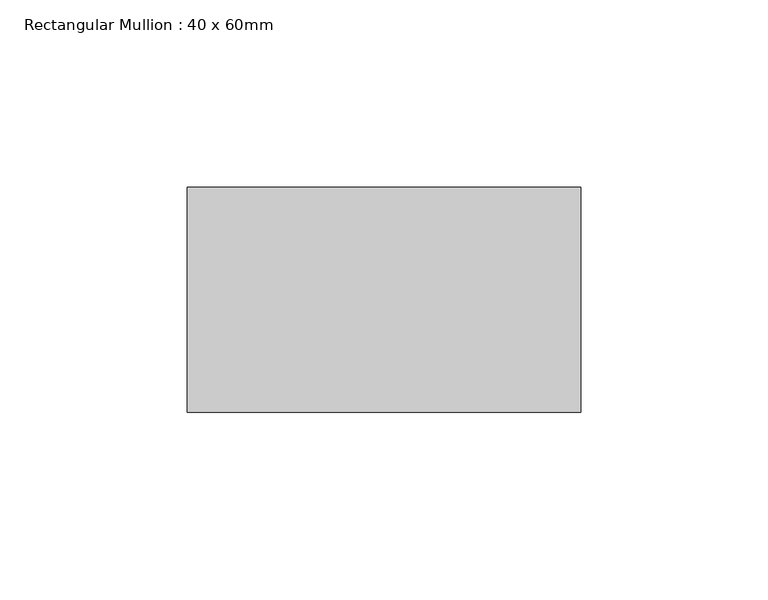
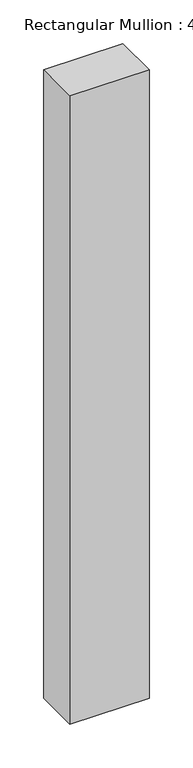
"""IFC4 building model written with IfcOpenShell, lengths in millimetres: member geometry, Rectangular Mullion : 40 x 60mm."""

from ifc_helpers import new_model, si_unit, frame, origin, place, context, project, spatial, polyline, outline, extrude, source, transform, mapped, element, save


def rectangular_mullion_40_x_60mm_8e39bbe2(model_context):
    return source(origin(), model_context, "Body", "SweptSolid", [
        extrude(outline(polyline([(80.0, -10.0), (80.0, -70.0), (-25.0, -70.0), (-25.0, -10.0), (80.0, -10.0)])), frame((0.0, 0.0, -880.108861), z_axis=(0.0, 0.0, 1.0), x_axis=(1.0, 0.0, 0.0)), (0.0, 0.0, 1.0), 880.108861),
    ])


if __name__ == "__main__":
    model = new_model("IFC4")
    model_context = context("Model", 3, world=origin())
    ifc_project = project(units=[si_unit("LENGTHUNIT", "METRE", prefix="MILLI")], contexts=[model_context])
    site = spatial("IfcSite", under=ifc_project)
    building = spatial("IfcBuilding", under=site)
    placement = place(None, origin())
    rectangular_mullion_40_x_60mm_shape = rectangular_mullion_40_x_60mm_8e39bbe2(model_context)
    element("IfcMember", 1, ObjectType="Rectangular Mullion : 40 x 60mm", at=placement, inside=building, context=model_context, shape_type="MappedRepresentation", body=[
        mapped(rectangular_mullion_40_x_60mm_shape, transform((0.0, 0.0, 0.0), x_axis=(1.0, 0.0, 0.0), y_axis=(0.0, 1.0, 0.0), z_axis=(0.0, 0.0, 1.0))),
    ])
    save(model, "model.ifc")
